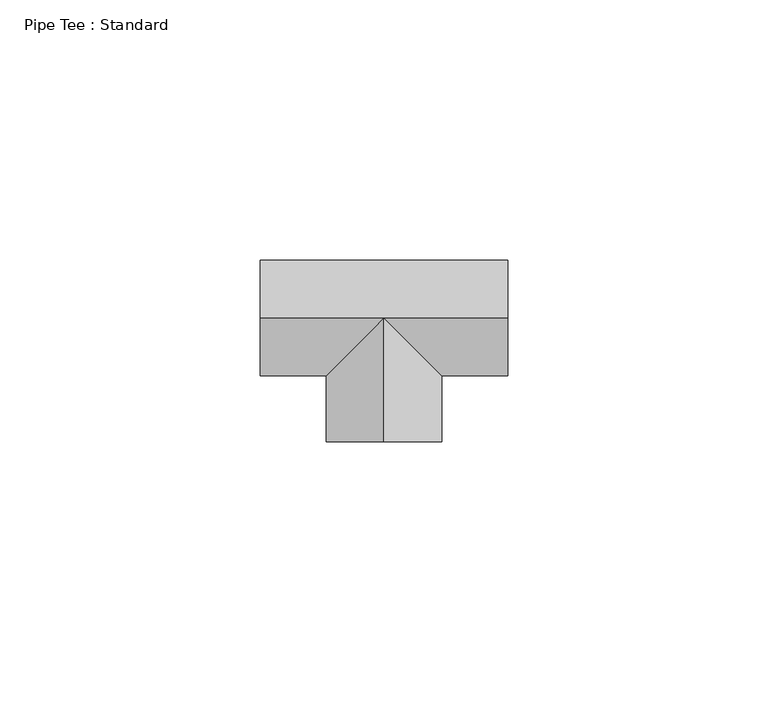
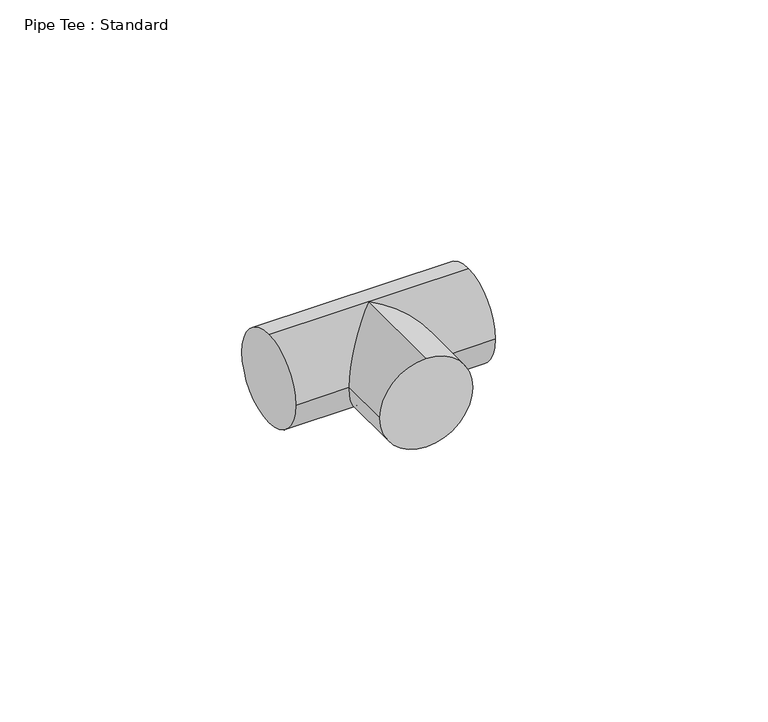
"""IFC4 building model written with IfcOpenShell, lengths in millimetres: pipe fitting geometry, Pipe Tee : Standard."""

from ifc_helpers import new_model, si_unit, frame, origin, place, context, project, spatial, circle_curve, ellipse_curve, source, transform, mapped, element, save
from ifc_brep_helpers import plane_surface, cylinder_surface, advanced_brep


def pipe_tee_standard_1a6ca384(model_context):
    return source(origin(), model_context, "Body", "AdvancedBrep", [
        advanced_brep(
        [(-23.8125, 0.0, 11.1125), (-23.8125, 11.1125, 0.0), (-23.8125, 0.0, -11.1125), (-23.8125, -11.1125, 0.0), (23.8125, 0.0, 11.1125), (23.8125, -11.1125, 0.0), (23.8125, 0.0, -11.1125), (23.8125, 11.1125, 0.0), (0.0, 0.0, 11.1125), (0.0, 0.0, -11.1125), (-11.1125, -11.1125, 0.0), (11.1125, -11.1125, 0.0), (0.0, -23.8125, 11.1125), (-11.1125, -23.8125, 0.0), (0.0, -23.8125, -11.1125), (11.1125, -23.8125, 0.0)],
        [
            (0, 1, circle_curve(frame((-23.8125, 0.0, 0.0), z_axis=(-1.0, 0.0, 0.0), x_axis=(0.0, 1.0, 0.0)), 11.1125)),
            (1, 2, circle_curve(frame((-23.8125, 0.0, 0.0), z_axis=(-1.0, 0.0, 0.0), x_axis=(0.0, 1.0, 0.0)), 11.1125)),
            (2, 3, circle_curve(frame((-23.8125, 0.0, 0.0), z_axis=(-1.0, 0.0, 0.0), x_axis=(0.0, 1.0, 0.0)), 11.1125)),
            (3, 0, circle_curve(frame((-23.8125, 0.0, 0.0), z_axis=(-1.0, 0.0, 0.0), x_axis=(0.0, 1.0, 0.0)), 11.1125)),
            (4, 5, circle_curve(frame((23.8125, 0.0, 0.0), z_axis=(1.0, 0.0, 0.0), x_axis=(0.0, 1.0, 0.0)), 11.1125)),
            (5, 6, circle_curve(frame((23.8125, 0.0, 0.0), z_axis=(1.0, 0.0, 0.0), x_axis=(0.0, 1.0, 0.0)), 11.1125)),
            (6, 7, circle_curve(frame((23.8125, 0.0, 0.0), z_axis=(1.0, 0.0, 0.0), x_axis=(0.0, 1.0, 0.0)), 11.1125)),
            (7, 4, circle_curve(frame((23.8125, 0.0, 0.0), z_axis=(1.0, 0.0, 0.0), x_axis=(0.0, 1.0, 0.0)), 11.1125)),
            (0, 8),
            (8, 4),
            (7, 1),
            (6, 9),
            (9, 2),
            (9, 10, ellipse_curve(frame((0.0, 0.0, 0.0), z_axis=(-0.707106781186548, 0.7071067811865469, 0.0), x_axis=(-0.7071067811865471, -0.7071067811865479, 0.0)), 15.7154482, 11.1125)),
            (10, 3),
            (5, 11),
            (11, 9, ellipse_curve(frame((0.0, 0.0, 0.0), z_axis=(0.7071067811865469, 0.7071067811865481, 0.0), x_axis=(-0.7071067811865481, 0.7071067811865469, 0.0)), 15.7154482, 11.1125)),
            (10, 8, ellipse_curve(frame((0.0, 0.0, 0.0), z_axis=(-0.707106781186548, 0.7071067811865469, 0.0), x_axis=(-0.7071067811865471, -0.7071067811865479, 0.0)), 15.7154482, 11.1125)),
            (8, 11, ellipse_curve(frame((0.0, 0.0, 0.0), z_axis=(0.7071067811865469, 0.7071067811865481, 0.0), x_axis=(-0.7071067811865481, 0.7071067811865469, 0.0)), 15.7154482, 11.1125)),
            (12, 13, circle_curve(frame((0.0, -23.8125, 0.0), z_axis=(0.0, -1.0, 0.0), x_axis=(1.0, 0.0, 0.0)), 11.1125)),
            (13, 14, circle_curve(frame((0.0, -23.8125, 0.0), z_axis=(0.0, -1.0, 0.0), x_axis=(1.0, 0.0, 0.0)), 11.1125)),
            (14, 15, circle_curve(frame((0.0, -23.8125, 0.0), z_axis=(0.0, -1.0, 0.0), x_axis=(1.0, 0.0, 0.0)), 11.1125)),
            (15, 12, circle_curve(frame((0.0, -23.8125, 0.0), z_axis=(0.0, -1.0, 0.0), x_axis=(1.0, 0.0, 0.0)), 11.1125)),
            (15, 11),
            (8, 12),
            (14, 9),
            (13, 10),
        ],
        [
            plane_surface(frame((-23.8125, 0.0, 0.0), z_axis=(-1.0, 0.0, 0.0), x_axis=(0.0, 0.0, 1.0))),
            plane_surface(frame((23.8125, 0.0, 0.0), z_axis=(1.0, 0.0, 0.0), x_axis=(0.0, 0.0, 1.0))),
            cylinder_surface(frame((-23.8125, 0.0, 0.0), z_axis=(-1.0, 0.0, 0.0), x_axis=(0.0, 1.0, 0.0)), 11.1125),
            plane_surface(frame((0.0, -23.8125, 0.0), z_axis=(0.0, -1.0, 0.0), x_axis=(0.0, 0.0, 1.0))),
            cylinder_surface(frame((0.0, 0.0, 0.0), z_axis=(0.0, 1.0, 0.0), x_axis=(1.0, 0.0, 0.0)), 11.1125),
        ],
        [
            (0, [[1, 2, 3, 4]]),
            (1, [[5, 6, 7, 8]]),
            (2, [[-1, 9, 10, -8, 11]]),
            (2, [[-2, -11, -7, 12, 13]]),
            (2, [[-3, -13, 14, 15]]),
            (2, [[-6, 16, 17, -12]]),
            (2, [[-4, -15, 18, -9]]),
            (2, [[-5, -10, 19, -16]]),
            (3, [[20, 21, 22, 23]]),
            (4, [[-23, 24, -19, 25]]),
            (4, [[-22, 26, -17, -24]]),
            (4, [[-21, 27, -14, -26]]),
            (4, [[-20, -25, -18, -27]]),
        ],
    ),
        advanced_brep(
        [(-23.8125, 0.0, 11.1125), (-23.8125, 11.1125, 0.0), (-23.8125, 0.0, -11.1125), (-23.8125, -11.1125, 0.0), (23.8125, 0.0, 11.1125), (23.8125, -11.1125, 0.0), (23.8125, 0.0, -11.1125), (23.8125, 11.1125, 0.0), (0.0, 0.0, 11.1125), (0.0, 0.0, -11.1125), (-11.1125, -11.1125, 0.0), (11.1125, -11.1125, 0.0), (0.0, -23.8125, 11.1125), (-11.1125, -23.8125, 0.0), (0.0, -23.8125, -11.1125), (11.1125, -23.8125, 0.0)],
        [
            (0, 1, circle_curve(frame((-23.8125, 0.0, 0.0), z_axis=(-1.0, 0.0, 0.0), x_axis=(0.0, 1.0, 0.0)), 11.1125)),
            (1, 2, circle_curve(frame((-23.8125, 0.0, 0.0), z_axis=(-1.0, 0.0, 0.0), x_axis=(0.0, 1.0, 0.0)), 11.1125)),
            (2, 3, circle_curve(frame((-23.8125, 0.0, 0.0), z_axis=(-1.0, 0.0, 0.0), x_axis=(0.0, 1.0, 0.0)), 11.1125)),
            (3, 0, circle_curve(frame((-23.8125, 0.0, 0.0), z_axis=(-1.0, 0.0, 0.0), x_axis=(0.0, 1.0, 0.0)), 11.1125)),
            (4, 5, circle_curve(frame((23.8125, 0.0, 0.0), z_axis=(1.0, 0.0, 0.0), x_axis=(0.0, 1.0, 0.0)), 11.1125)),
            (5, 6, circle_curve(frame((23.8125, 0.0, 0.0), z_axis=(1.0, 0.0, 0.0), x_axis=(0.0, 1.0, 0.0)), 11.1125)),
            (6, 7, circle_curve(frame((23.8125, 0.0, 0.0), z_axis=(1.0, 0.0, 0.0), x_axis=(0.0, 1.0, 0.0)), 11.1125)),
            (7, 4, circle_curve(frame((23.8125, 0.0, 0.0), z_axis=(1.0, 0.0, 0.0), x_axis=(0.0, 1.0, 0.0)), 11.1125)),
            (0, 8),
            (8, 4),
            (7, 1),
            (6, 9),
            (9, 2),
            (9, 10, ellipse_curve(frame((0.0, 0.0, 0.0), z_axis=(-0.707106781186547, 0.7071067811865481, 0.0), x_axis=(-0.707106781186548, -0.707106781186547, 0.0)), 15.7154482, 11.1125)),
            (10, 3),
            (5, 11),
            (11, 9, ellipse_curve(frame((0.0, 0.0, 0.0), z_axis=(0.707106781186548, 0.7071067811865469, 0.0), x_axis=(-0.707106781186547, 0.707106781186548, 0.0)), 15.7154482, 11.1125)),
            (10, 8, ellipse_curve(frame((0.0, 0.0, 0.0), z_axis=(-0.707106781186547, 0.7071067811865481, 0.0), x_axis=(-0.707106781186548, -0.707106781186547, 0.0)), 15.7154482, 11.1125)),
            (8, 11, ellipse_curve(frame((0.0, 0.0, 0.0), z_axis=(0.707106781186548, 0.7071067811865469, 0.0), x_axis=(-0.707106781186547, 0.707106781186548, 0.0)), 15.7154482, 11.1125)),
            (12, 13, circle_curve(frame((0.0, -23.8125, 0.0), z_axis=(0.0, -1.0, 0.0), x_axis=(1.0, 0.0, 0.0)), 11.1125)),
            (13, 14, circle_curve(frame((0.0, -23.8125, 0.0), z_axis=(0.0, -1.0, 0.0), x_axis=(1.0, 0.0, 0.0)), 11.1125)),
            (14, 15, circle_curve(frame((0.0, -23.8125, 0.0), z_axis=(0.0, -1.0, 0.0), x_axis=(1.0, 0.0, 0.0)), 11.1125)),
            (15, 12, circle_curve(frame((0.0, -23.8125, 0.0), z_axis=(0.0, -1.0, 0.0), x_axis=(1.0, 0.0, 0.0)), 11.1125)),
            (15, 11),
            (8, 12),
            (14, 9),
            (13, 10),
        ],
        [
            plane_surface(frame((-23.8125, 0.0, 0.0), z_axis=(-1.0, 0.0, 0.0), x_axis=(0.0, 0.0, 1.0))),
            plane_surface(frame((23.8125, 0.0, 0.0), z_axis=(1.0, 0.0, 0.0), x_axis=(0.0, 0.0, 1.0))),
            cylinder_surface(frame((-23.8125, 0.0, 0.0), z_axis=(-1.0, 0.0, 0.0), x_axis=(0.0, 1.0, 0.0)), 11.1125),
            plane_surface(frame((0.0, -23.8125, 0.0), z_axis=(0.0, -1.0, 0.0), x_axis=(0.0, 0.0, 1.0))),
            cylinder_surface(frame((0.0, 0.0, 0.0), z_axis=(0.0, 1.0, 0.0), x_axis=(1.0, 0.0, 0.0)), 11.1125),
        ],
        [
            (0, [[1, 2, 3, 4]]),
            (1, [[5, 6, 7, 8]]),
            (2, [[-1, 9, 10, -8, 11]]),
            (2, [[-2, -11, -7, 12, 13]]),
            (2, [[-3, -13, 14, 15]]),
            (2, [[-6, 16, 17, -12]]),
            (2, [[-4, -15, 18, -9]]),
            (2, [[-5, -10, 19, -16]]),
            (3, [[20, 21, 22, 23]]),
            (4, [[-23, 24, -19, 25]]),
            (4, [[-22, 26, -17, -24]]),
            (4, [[-21, 27, -14, -26]]),
            (4, [[-20, -25, -18, -27]]),
        ],
    ),
    ])


if __name__ == "__main__":
    model = new_model("IFC4")
    model_context = context("Model", 3, world=origin())
    ifc_project = project(units=[si_unit("LENGTHUNIT", "METRE", prefix="MILLI")], contexts=[model_context])
    site = spatial("IfcSite", under=ifc_project)
    building = spatial("IfcBuilding", under=site)
    placement = place(None, origin())
    pipe_tee_standard_shape = pipe_tee_standard_1a6ca384(model_context)
    element("IfcPipeFitting", 1, ObjectType="Pipe Tee : Standard", at=placement, inside=building, context=model_context, shape_type="MappedRepresentation", body=[
        mapped(pipe_tee_standard_shape, transform((0.0, 0.0, 0.0), x_axis=(1.0, 0.0, 0.0), y_axis=(0.0, 1.0, 0.0), z_axis=(0.0, 0.0, 1.0))),
    ])
    save(model, "model.ifc")
